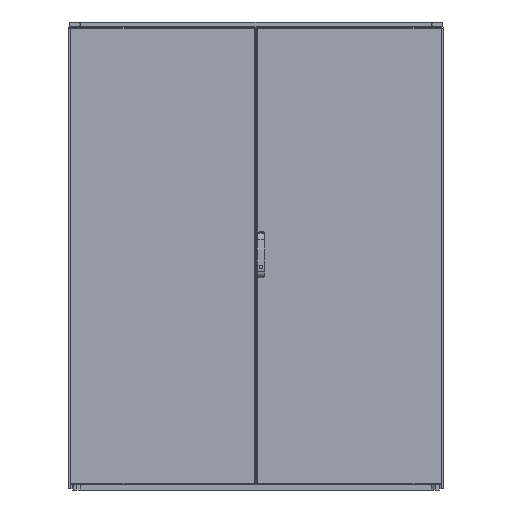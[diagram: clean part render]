
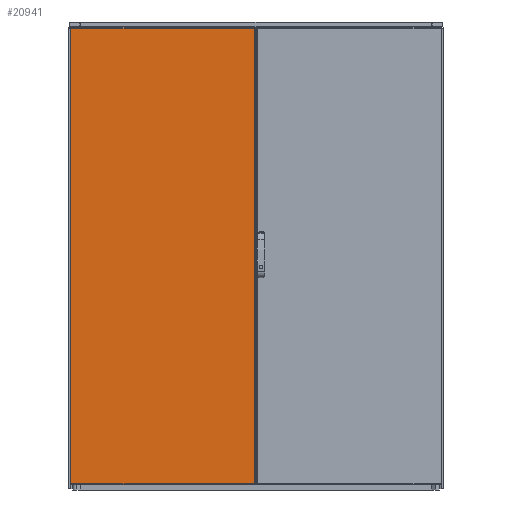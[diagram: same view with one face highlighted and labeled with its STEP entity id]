
A CAD part, front view. The second image highlights one B-rep face of the part: STEP entity #20941.
In plain terms, the highlighted planar face has unit normal (0, -1, 0).
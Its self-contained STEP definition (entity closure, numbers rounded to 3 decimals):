
#5489=ORIENTED_EDGE('',*,*,#9692,.T.);
#5490=ORIENTED_EDGE('',*,*,#9693,.T.);
#5491=ORIENTED_EDGE('',*,*,#9694,.T.);
#5492=ORIENTED_EDGE('',*,*,#9695,.T.);
#9692=EDGE_CURVE('',#12077,#12078,#14115,.F.);
#9693=EDGE_CURVE('',#12078,#12079,#14116,.F.);
#9694=EDGE_CURVE('',#12079,#12080,#14117,.F.);
#9695=EDGE_CURVE('',#12080,#12077,#14118,.F.);
#12077=VERTEX_POINT('',#34214);
#12078=VERTEX_POINT('',#34215);
#12079=VERTEX_POINT('',#34217);
#12080=VERTEX_POINT('',#34219);
#14115=LINE('',#34213,#16184);
#14116=LINE('',#34216,#16185);
#14117=LINE('',#34218,#16186);
#14118=LINE('',#34220,#16187);
#16184=VECTOR('',#27461,1000.);
#16185=VECTOR('',#27462,1000.);
#16186=VECTOR('',#27463,1000.);
#16187=VECTOR('',#27464,1000.);
#17711=EDGE_LOOP('',(#5489,#5490,#5491,#5492));
#19014=FACE_BOUND('',#17711,.T.);
#19942=PLANE('',#22785);
#20941=ADVANCED_FACE('',(#19014),#19942,.F.);
#22785=AXIS2_PLACEMENT_3D('',#34212,#27459,#27460);
#27459=DIRECTION('',(0.,1.,0.));
#27460=DIRECTION('',(0.,0.,1.));
#27461=DIRECTION('',(0.,0.,-1.));
#27462=DIRECTION('',(1.,0.,0.));
#27463=DIRECTION('',(0.,0.,1.));
#27464=DIRECTION('',(-1.,0.,0.));
#34212=CARTESIAN_POINT('',(0.,0.,0.));
#34213=CARTESIAN_POINT('',(394.5,0.,0.));
#34214=CARTESIAN_POINT('',(394.5,0.,-977.));
#34215=CARTESIAN_POINT('',(394.5,0.,977.));
#34216=CARTESIAN_POINT('',(0.,0.,977.));
#34217=CARTESIAN_POINT('',(-394.5,0.,977.));
#34218=CARTESIAN_POINT('',(-394.5,0.,0.));
#34219=CARTESIAN_POINT('',(-394.5,0.,-977.));
#34220=CARTESIAN_POINT('',(0.,0.,-977.));
